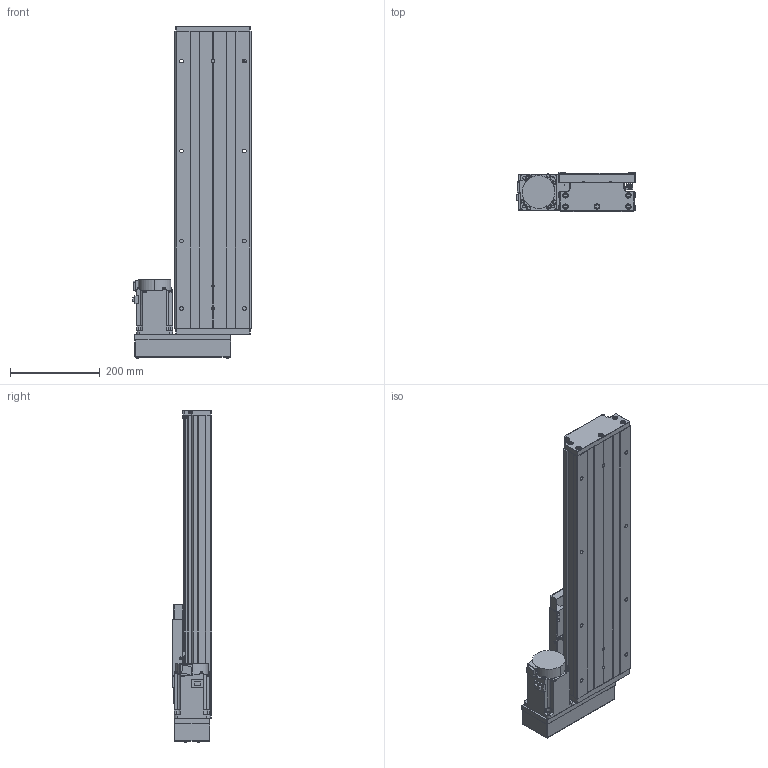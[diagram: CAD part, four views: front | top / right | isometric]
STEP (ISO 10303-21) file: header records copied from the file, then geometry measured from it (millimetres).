
FILE_DESCRIPTION (( 'STEP AP203' ), '1' );
FILE_NAME ('GTH17-400-BL-M75-C4.step', '2023-06-30T12:00:30', ( '微软用户' ), ( '微软中国' ), 'SwSTEP 2.0', 'SolidWorks 2020', '' );
FILE_SCHEMA (( 'CONFIG_CONTROL_DESIGN' ));
Length unit declared in the file: millimetre
Products named in the file (19): CTHA60-017; GBT 70.2-M3¡Á5_M3¡Á6; EE_SX911P_R; す晦芛蹟隊 M3℅5; GTH17-001_400; CTHA60-016; HG-KN73J-S100; GTH17-002_GTH17-002; GBT 70.1-M3℅5; GBT 70.2-M4¡Á45_M4¡Á35; GTH17-004; GBT77-2000 M3×3; GTH17-015-2_CTHA86-015-2; GTH17-005; GBT 70.1-M6¡Á20_M6¡Á20; GTH17-033; GB1155-6X6; GTH17-031; GTH17-400-BL-M75-C4
Assembly tree (58 placements, depth 2):
  GTH17-400-BL-M75-C4
    GTH17-001_400
    GTH17-002_GTH17-002
    GTH17-004
    GTH17-005
    GB1155-6X6  x2
    CTHA60-017  x3
    EE_SX911P_R  x3
    CTHA60-016  x2
    GBT 70.1-M3℅5  x6
    GBT77-2000 M3×3  x6
    GBT 70.1-M6¡Á20_M6¡Á20  x10
    GTH17-031
    GBT 70.2-M3¡Á5_M3¡Á6  x8
    す晦芛蹟隊 M3℅5  x6
    HG-KN73J-S100
    GBT 70.2-M4¡Á45_M4¡Á35  x4
    GTH17-015-2_CTHA86-015-2
    GTH17-033
Bounding box: 264.3 x 87 x 738.2 mm (x, y, z)
Volume: 6493233.6 mm3; surface area: 974215.4 mm2
Topology: 61 solids, 61 shells, 2429 faces, 5797 edges, 3587 vertices
Faces by surface type: plane 1306, cylinder 650, cone 297, torus 124, sphere 32, bspline 20
Entity records: 44122 total; most frequent: CARTESIAN_POINT 10266, DIRECTION 6361, ORIENTED_EDGE 6306, EDGE_CURVE 3153, AXIS2_PLACEMENT_3D 2160, VECTOR 2041, LINE 2041, VERTEX_POINT 1999
